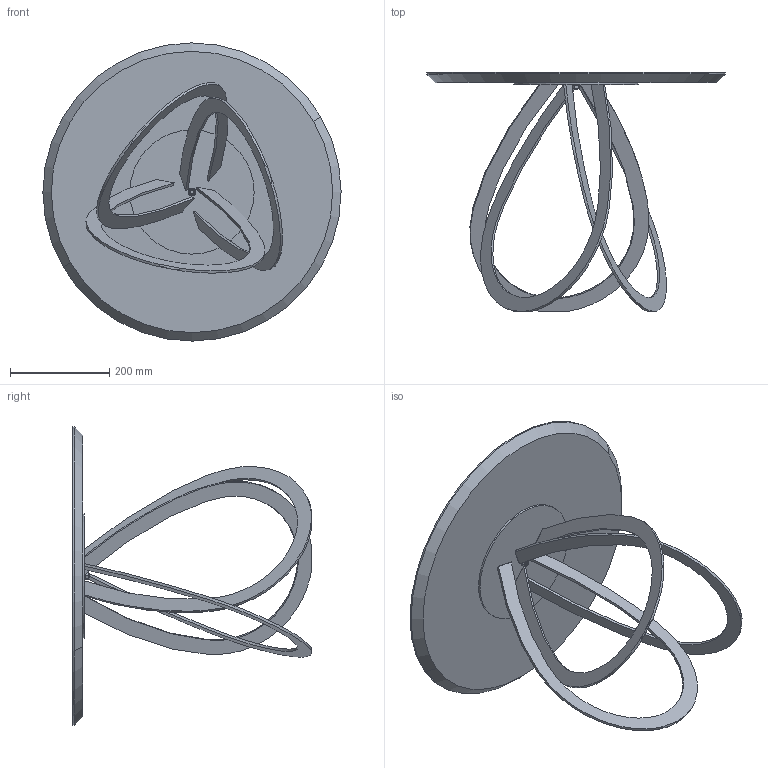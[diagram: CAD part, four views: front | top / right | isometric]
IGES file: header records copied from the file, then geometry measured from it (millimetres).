
Start section: SolidWorks IGES file using analytic representation for surfaces
Global section: file name: Y:\eforma\TECNICO\SOLIDWORKS\E-FORMA\2-TAVOLINI\FEBE LOW\02 parts\FL01W_Febe Low_d60xh48_Wood.IGS; native system: SolidWorks 2022; preprocessor: SolidWorks 2022; author: eforma.tech; date: 240806.105637; units: millimetre
Bounding box: 600 x 480.62 x 600 mm (x, y, z)
Volume: 6122913.7 mm3; surface area: 939065.3 mm2
Topology: 8 solids, 8 shells, 125 faces, 280 edges, 173 vertices
Faces by surface type: revolution 64, plane 49, bspline 12
